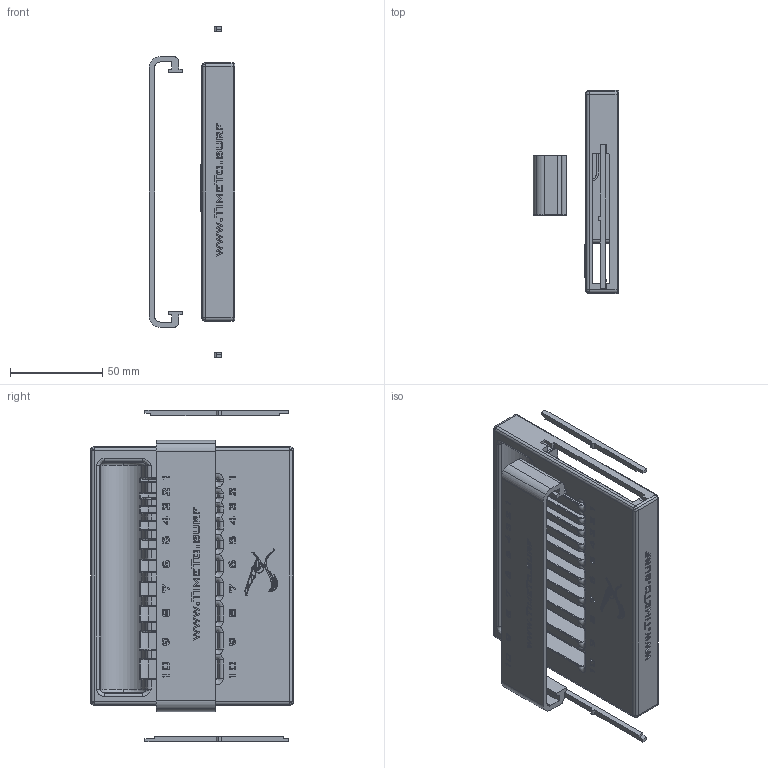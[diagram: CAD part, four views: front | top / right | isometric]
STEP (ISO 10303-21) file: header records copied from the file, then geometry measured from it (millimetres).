
FILE_DESCRIPTION(('STEP AP214'),'1');
FILE_NAME('BF-20240206-shim_tray-02cbr.2.stp','2024-02-06T08:12:43',(' '),(' '),'Spatial InterOp 3D',' ',' ');
FILE_SCHEMA(('AUTOMOTIVE_DESIGN { 1 0 10303 214 1 1 1 1 }'));
Length unit declared in the file: metre
Products named in the file (1): BF-20240205-shim_tray_partA-01cbr
Bounding box: 46.5 x 110 x 180 mm (x, y, z)
Volume: 146752.9 mm3; surface area: 90382.5 mm2
Topology: 4 solids, 4 shells, 3268 faces, 9450 edges, 6215 vertices
Faces by surface type: cylinder 1823, plane 891, extrusion 318, torus 101, bspline 96, sphere 39
Entity records: 127209 total; most frequent: CARTESIAN_POINT 39324, ORIENTED_EDGE 18778, DIRECTION 18686, EDGE_CURVE 9389, AXIS2_PLACEMENT_3D 6937, VERTEX_POINT 6215, VECTOR 4812, LINE 4494
